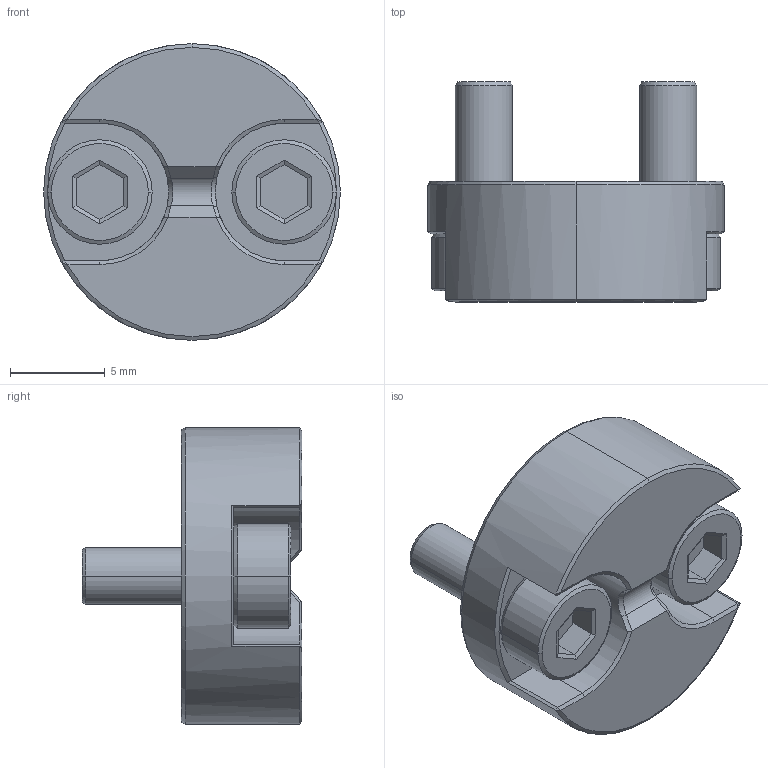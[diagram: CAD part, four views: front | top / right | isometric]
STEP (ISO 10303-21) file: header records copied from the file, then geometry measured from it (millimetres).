
FILE_DESCRIPTION (( 'STEP AP203' ), '1' );
FILE_NAME ('SRTMC-04.STEP', '2012-09-12T23:16:57', ( '' ), ( '' ), 'SwSTEP 2.0', 'SolidWorks 2010', '' );
FILE_SCHEMA (( 'CONFIG_CONTROL_DESIGN' ));
Length unit declared in the file: millimetre
Products named in the file (3): SRTMC-04_SHCS; SRTMC-04
Assembly tree (3 placements, depth 2):
  SRTMC-04
    SRTMC-04_SHCS  x2
    SRTMC-04
Bounding box: 15.62 x 11.58 x 15.62 mm (x, y, z)
Volume: 1116.4 mm3; surface area: 1127.8 mm2
Topology: 3 solids, 3 shells, 101 faces, 222 edges, 131 vertices
Faces by surface type: plane 55, cone 23, cylinder 17, bspline 6
Entity records: 2434 total; most frequent: CARTESIAN_POINT 486, ORIENTED_EDGE 336, DIRECTION 333, EDGE_CURVE 168, AXIS2_PLACEMENT_3D 122, VERTEX_POINT 99, VECTOR 89, LINE 89
